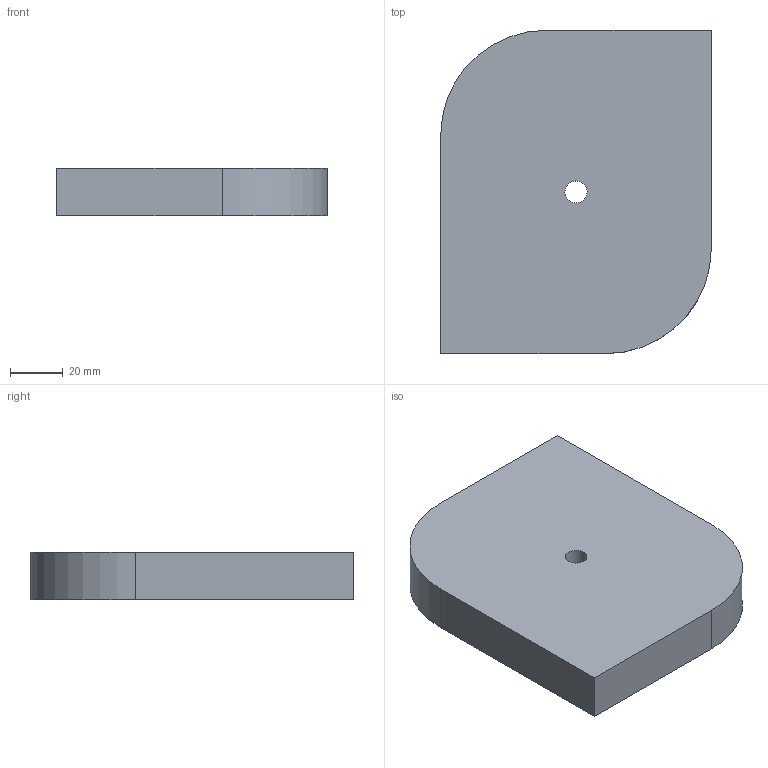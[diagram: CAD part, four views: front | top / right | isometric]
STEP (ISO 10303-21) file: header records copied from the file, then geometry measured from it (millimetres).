
FILE_DESCRIPTION(('CATIA V5 STEP Exchange'),'2;1');
FILE_NAME('C:\_Andres\UNIVERSIDAD\IQS\ASIGNATURAS\DAO\EXF\EXF-15161c\1original\Martínez_Perelló_Ej01-plano_v13.stp','2016-03-04T14:59:45+00:00',('none'),('none'),'CATIA Version 5 Release 20 SP 1 (IN-10)','CATIA V5 STEP AP203','none');
FILE_SCHEMA(('CONFIG_CONTROL_DESIGN'));
Length unit declared in the file: millimetre
Products named in the file (1): Martínez_Perelló_Ej01-plano_v13
Bounding box: 103 x 123 x 18 mm (x, y, z)
Volume: 214689.1 mm3; surface area: 31845.9 mm2
Topology: 1 solids, 1 shells, 10 faces, 24 edges, 16 vertices
Faces by surface type: plane 6, cylinder 4
Entity records: 333 total; most frequent: CARTESIAN_POINT 51, ORIENTED_EDGE 48, DIRECTION 44, EDGE_CURVE 24, AXIS2_PLACEMENT_3D 19, VECTOR 16, LINE 16, VERTEX_POINT 16
